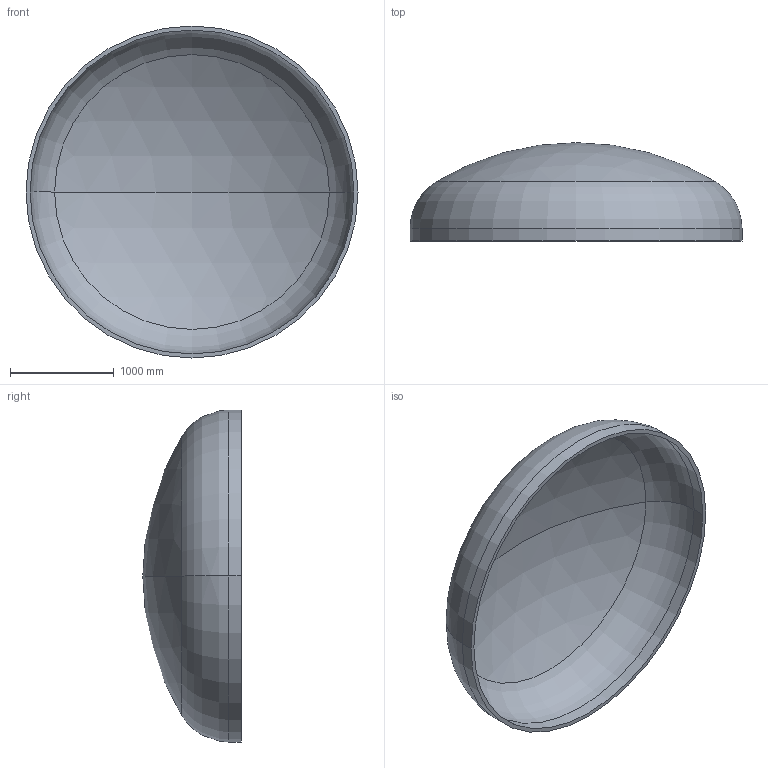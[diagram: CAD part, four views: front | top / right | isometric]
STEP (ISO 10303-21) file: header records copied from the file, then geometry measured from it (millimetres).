
FILE_DESCRIPTION (( 'STEP AP203' ), '1' );
FILE_NAME ('DIN 28013 Korbbogenform_-_Boden DIN 28013 - 3200 x 120 - I - s=39.step', '2016-07-01T18:35:47', ( '' ), ( '' ), 'SwSTEP 2.0', 'SolidWorks 2013', '' );
FILE_SCHEMA (( 'CONFIG_CONTROL_DESIGN' ));
Length unit declared in the file: millimetre
Products named in the file (1): DIN 28013 Korbbogenform_-_Boden DIN 28013 - 3200 x 120 - I - s=39
Bounding box: 3200 x 947.6 x 3200 mm (x, y, z)
Volume: 473463786.5 mm3; surface area: 24670663.4 mm2
Topology: 1 solids, 1 shells, 13 faces, 24 edges, 14 vertices
Faces by surface type: torus 4, cylinder 4, sphere 4, plane 1
Entity records: 407 total; most frequent: DIRECTION 72, CARTESIAN_POINT 52, ORIENTED_EDGE 48, AXIS2_PLACEMENT_3D 34, EDGE_CURVE 24, CIRCLE 20, EDGE_LOOP 14, VERTEX_POINT 14
